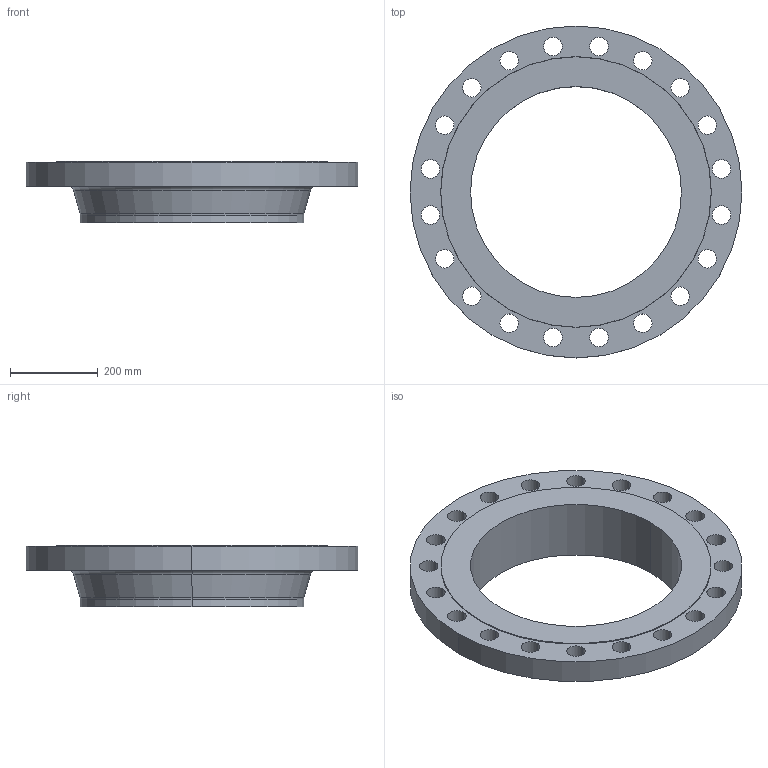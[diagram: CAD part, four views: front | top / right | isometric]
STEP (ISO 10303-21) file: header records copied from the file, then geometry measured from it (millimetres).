
FILE_DESCRIPTION (( 'STEP AP214' ), '1' );
FILE_NAME ('PN40 DN500 Type 11 - Type B Face.STEP', '2018-12-29T04:30:46', ( '' ), ( '' ), 'SwSTEP 2.0', 'SolidWorks 2019', '' );
FILE_SCHEMA (( 'AUTOMOTIVE_DESIGN' ));
Length unit declared in the file: millimetre
Products named in the file (1): PN40 DN500 Type 11 - Type B Face
Bounding box: 755 x 755 x 140 mm (x, y, z)
Volume: 16195056.9 mm3; surface area: 1074502.6 mm2
Topology: 1 solids, 1 shells, 58 faces, 156 edges, 102 vertices
Faces by surface type: cylinder 46, cone 4, torus 4, plane 4
Entity records: 1996 total; most frequent: DIRECTION 380, CARTESIAN_POINT 317, ORIENTED_EDGE 312, AXIS2_PLACEMENT_3D 165, EDGE_CURVE 156, CIRCLE 106, EDGE_LOOP 102, VERTEX_POINT 102
